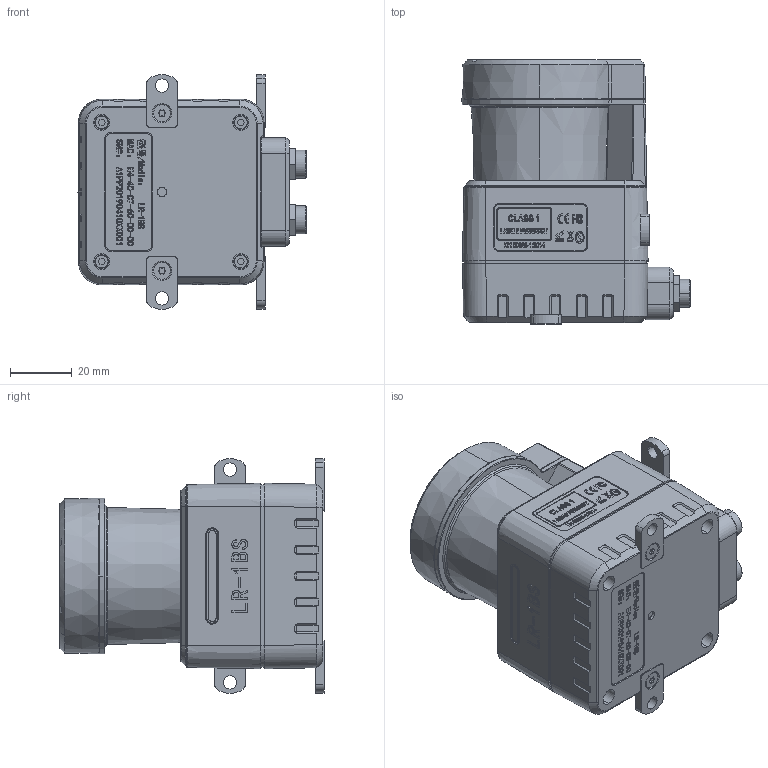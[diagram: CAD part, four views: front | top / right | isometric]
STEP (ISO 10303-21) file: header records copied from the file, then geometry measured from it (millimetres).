
FILE_DESCRIPTION (( 'STEP AP214' ), '1' );
FILE_NAME ('LR-1BS5 翋儂-CT-2020.3.17.STEP', '2020-03-17T07:47:23', ( 'win7' ), ( '' ), 'SwSTEP 2.0', 'SolidWorks 2018', '' );
FILE_SCHEMA (( 'AUTOMOTIVE_DESIGN' ));
Length unit declared in the file: millimetre
Products named in the file (1): LR-1BS5 翋儂-CT-2020.3.17
Bounding box: 73.8 x 85.4 x 76 mm (x, y, z)
Volume: 238901.4 mm3; surface area: 53446.4 mm2
Topology: 28 solids, 28 shells, 2967 faces, 7683 edges, 5019 vertices
Faces by surface type: plane 1514, bspline 756, cylinder 463, cone 165, torus 69
Entity records: 159617 total; most frequent: CARTESIAN_POINT 59161, ORIENTED_EDGE 15310, DIRECTION 11399, EDGE_CURVE 7655, VERTEX_POINT 5019, VECTOR 4803, LINE 4803, AXIS2_PLACEMENT_3D 3298
